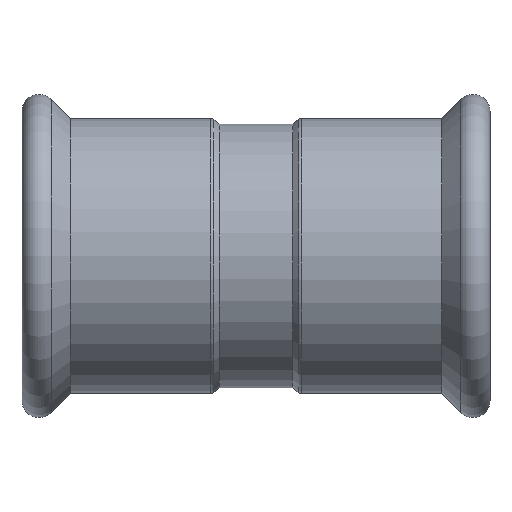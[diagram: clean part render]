
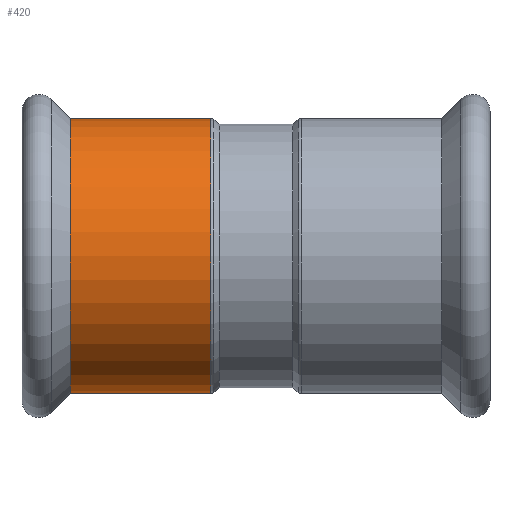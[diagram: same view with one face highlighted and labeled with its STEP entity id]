
A CAD part, top view. The second image highlights one B-rep face of the part: STEP entity #420.
In plain terms, the highlighted cylindrical face has radius 56.35 mm (diameter 112.7 mm), a partial arc.
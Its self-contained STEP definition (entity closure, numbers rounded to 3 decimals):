
#10=CARTESIAN_POINT('',(45.19,0.,0.));
#20=DIRECTION('',(-1.,0.,0.));
#30=DIRECTION('',(0.,1.,0.));
#40=AXIS2_PLACEMENT_3D('',#10,#20,#30);
#50=CYLINDRICAL_SURFACE('',#40,56.35);
#60=CARTESIAN_POINT('',(45.19,56.35,0.));
#70=DIRECTION('',(-1.,0.,0.));
#80=VECTOR('',#70,1.);
#90=LINE('',#60,#80);
#100=CARTESIAN_POINT('',(68.151,56.35,0.));
#110=VERTEX_POINT('',#100);
#120=CARTESIAN_POINT('',(10.529,56.35,0.));
#130=VERTEX_POINT('',#120);
#140=EDGE_CURVE('',#110,#130,#90,.T.);
#150=ORIENTED_EDGE('',*,*,#140,.T.);
#160=CARTESIAN_POINT('',(68.151,0.,0.));
#170=DIRECTION('',(1.,0.,0.));
#180=DIRECTION('',(0.,1.,0.));
#190=AXIS2_PLACEMENT_3D('',#160,#170,#180);
#200=CIRCLE('',#190,56.35);
#210=CARTESIAN_POINT('',(68.151,-56.35,0.))
;
#220=VERTEX_POINT('',#210);
#230=EDGE_CURVE('',#110,#220,#200,.T.);
#240=ORIENTED_EDGE('',*,*,#230,.F.);
#250=CARTESIAN_POINT('',(45.19,-56.35,0.))
;
#260=DIRECTION('',(-1.,0.,0.));
#270=VECTOR('',#260,1.);
#280=LINE('',#250,#270);
#290=CARTESIAN_POINT('',(10.529,-56.35,0.));
#300=VERTEX_POINT('',#290);
#310=EDGE_CURVE('',#220,#300,#280,.T.);
#320=ORIENTED_EDGE('',*,*,#310,.F.);
#330=CARTESIAN_POINT('',(10.529,0.,0.));
#340=DIRECTION('',(-1.,0.,0.));
#350=DIRECTION('',(0.,1.,0.));
#360=AXIS2_PLACEMENT_3D('',#330,#340,#350);
#370=CIRCLE('',#360,56.35);
#380=EDGE_CURVE('',#300,#130,#370,.T.);
#390=ORIENTED_EDGE('',*,*,#380,.F.);
#400=EDGE_LOOP('',(#390,#320,#240,#150));
#410=FACE_OUTER_BOUND('',#400,.T.);
#420=ADVANCED_FACE('',(#410),#50,.T.);
